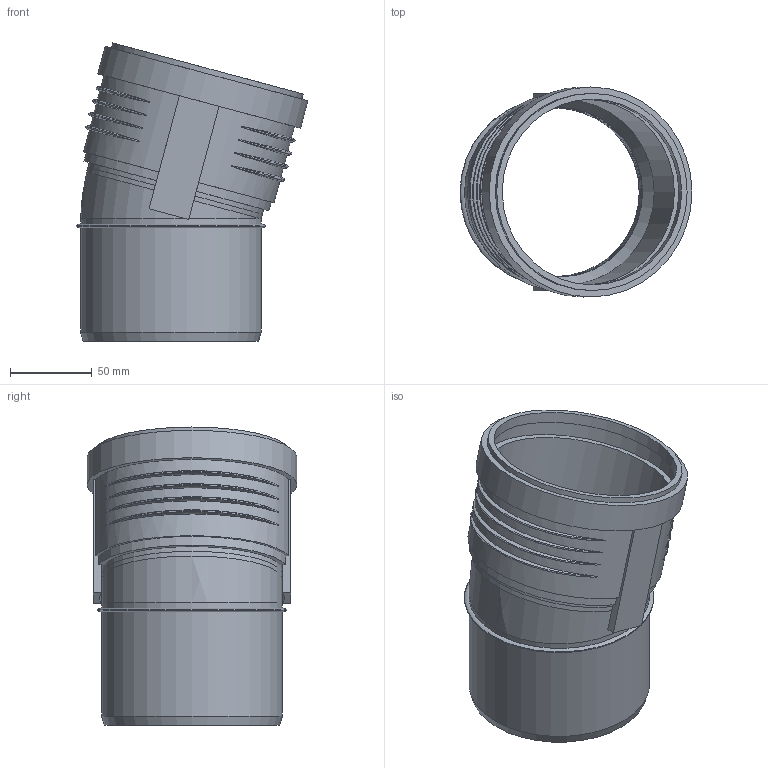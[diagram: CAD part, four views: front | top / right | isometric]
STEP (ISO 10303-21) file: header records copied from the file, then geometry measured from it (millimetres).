
FILE_DESCRIPTION(/* description */ (''),/* implementation_level */ '2;1');
FILE_NAME(/* name */ 'Z:\Geberit\Export\NewStep\390520.stp',/* time_stamp */ '2014-04-02T08:14:05+02:00',/* author */ ('ML'),/* organization */ (''),/* preprocessor_version */ 'ST-DEVELOPER v15.2',/* originating_system */ 'Autodesk Inventor 2014',/* authorisation */ '');
FILE_SCHEMA (('AUTOMOTIVE_DESIGN { 1 0 10303 214 3 1 1 }'));
Length unit declared in the file: millimetre
Products named in the file (3): 861331; 861404; 390520
Bounding box: 141.51 x 128.1 x 181.84 mm (x, y, z)
Volume: 239297.9 mm3; surface area: 139848.4 mm2
Topology: 2 solids, 2 shells, 68 faces, 162 edges, 109 vertices
Faces by surface type: torus 28, plane 19, cylinder 18, cone 2, bspline 1
Full cylindrical faces by diameter (mm): 103 x2, 103.2 x1, 110.2 x4, 113.3 x2, 120.3 x1, 121.1 x1, 128.1 x1
Entity records: 2726 total; most frequent: CARTESIAN_POINT 1150, DIRECTION 290, ORIENTED_EDGE 278, EDGE_CURVE 139, AXIS2_PLACEMENT_3D 127, VERTEX_POINT 106, EDGE_LOOP 103, STYLED_ITEM 70
